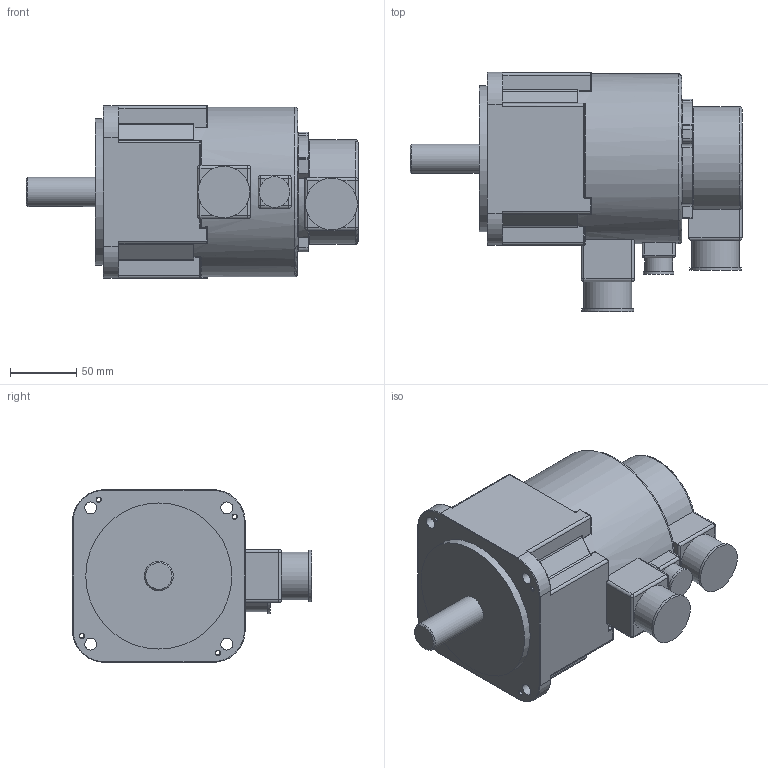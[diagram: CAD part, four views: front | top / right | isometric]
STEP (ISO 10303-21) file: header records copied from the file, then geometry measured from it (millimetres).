
FILE_DESCRIPTION(/* description */ (''),/* implementation_level */ '2;1');
FILE_NAME(/* name */ '130GSL05415MZA.stp',/* time_stamp */ '2020-09-04T08:26:26+08:00',/* author */ (''),/* organization */ (''),/* preprocessor_version */ 'ST-DEVELOPER v16',/* originating_system */ 'SIEMENS PLM Software NX 10.0',/* authorisation */ '');
FILE_SCHEMA (('CONFIG_CONTROL_DESIGN'));
Length unit declared in the file: millimetre
Products named in the file (1): 130GSL05415-FZ
Bounding box: 250 x 180 x 130 mm (x, y, z)
Volume: 2489595.4 mm3; surface area: 132174.8 mm2
Topology: 1 solids, 1 shells, 335 faces, 823 edges, 469 vertices
Faces by surface type: cylinder 151, plane 93, torus 38, bspline 27, sphere 17, cone 9
Full cylindrical faces by diameter (mm): 3.3 x4, 9 x4, 21 x1, 22 x1, 23 x1, 36 x2, 39 x2, 110 x1, 128 x1
Entity records: 11488 total; most frequent: CARTESIAN_POINT 3933, DIRECTION 1588, ORIENTED_EDGE 1522, EDGE_CURVE 761, AXIS2_PLACEMENT_3D 628, VERTEX_POINT 463, EDGE_LOOP 386, ADVANCED_FACE 335
